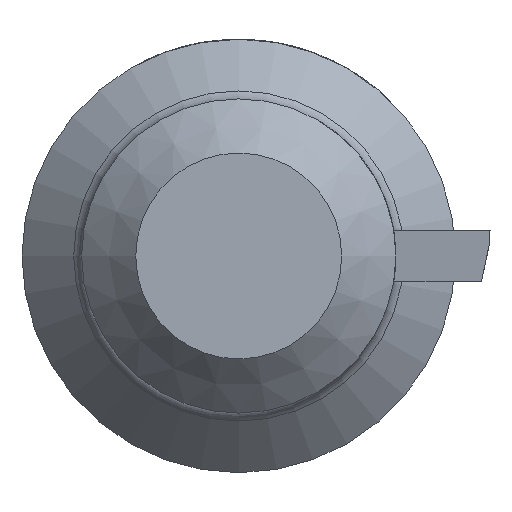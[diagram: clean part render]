
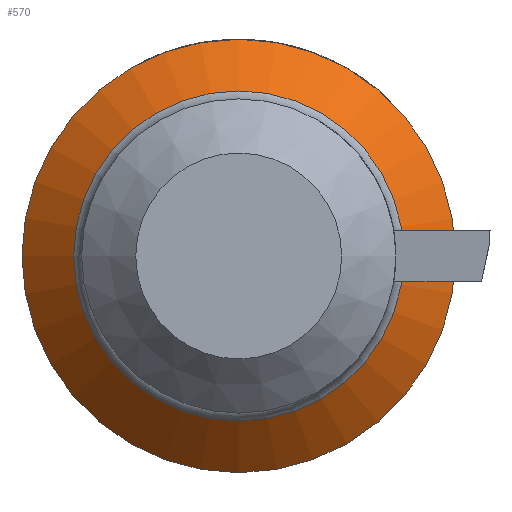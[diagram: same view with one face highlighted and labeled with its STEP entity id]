
A CAD part, left-side view. The second image highlights one B-rep face of the part: STEP entity #570.
In plain terms, the highlighted conical face has half-angle 45 degrees and reference radius 3.523 mm.
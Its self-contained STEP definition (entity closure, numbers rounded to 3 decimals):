
#14=CONICAL_SURFACE('',#644,3.523,0.785);
#42=CIRCLE('',#642,4.);
#44=CIRCLE('',#645,3.046);
#45=CIRCLE('',#646,3.046);
#93=FACE_OUTER_BOUND('',#126,.T.);
#126=EDGE_LOOP('',(#462,#463,#464,#465,#466));
#171=LINE('',#1030,#212);
#212=VECTOR('',#798,3.523);
#256=VERTEX_POINT('',#1020);
#258=VERTEX_POINT('',#1026);
#259=VERTEX_POINT('',#1027);
#327=EDGE_CURVE('',#256,#256,#42,.T.);
#330=EDGE_CURVE('',#258,#259,#44,.T.);
#331=EDGE_CURVE('',#259,#258,#45,.T.);
#332=EDGE_CURVE('',#259,#256,#171,.T.);
#462=ORIENTED_EDGE('',*,*,#330,.F.);
#463=ORIENTED_EDGE('',*,*,#331,.F.);
#464=ORIENTED_EDGE('',*,*,#332,.T.);
#465=ORIENTED_EDGE('',*,*,#327,.T.);
#466=ORIENTED_EDGE('',*,*,#332,.F.);
#570=ADVANCED_FACE('',(#93),#14,.T.);
#642=AXIS2_PLACEMENT_3D('',#1021,#787,#788);
#644=AXIS2_PLACEMENT_3D('',#1025,#792,#793);
#645=AXIS2_PLACEMENT_3D('',#1028,#794,#795);
#646=AXIS2_PLACEMENT_3D('',#1029,#796,#797);
#787=DIRECTION('center_axis',(-1.,0.,0.));
#788=DIRECTION('ref_axis',(0.,0.,1.));
#792=DIRECTION('center_axis',(1.,0.,0.));
#793=DIRECTION('ref_axis',(0.,-1.,0.));
#794=DIRECTION('center_axis',(-1.,0.,0.));
#795=DIRECTION('ref_axis',(0.,0.,1.));
#796=DIRECTION('center_axis',(-1.,0.,0.));
#797=DIRECTION('ref_axis',(0.,0.,1.));
#798=DIRECTION('',(0.707,0.707,0.));
#1020=CARTESIAN_POINT('',(54.1,4.,0.));
#1021=CARTESIAN_POINT('Origin',(54.1,0.,0.));
#1025=CARTESIAN_POINT('Origin',(53.623,0.,0.));
#1026=CARTESIAN_POINT('',(53.146,0.,-3.046));
#1027=CARTESIAN_POINT('',(53.146,3.046,0.));
#1028=CARTESIAN_POINT('Origin',(53.146,0.,0.));
#1029=CARTESIAN_POINT('Origin',(53.146,0.,0.));
#1030=CARTESIAN_POINT('',(53.623,3.523,0.));
